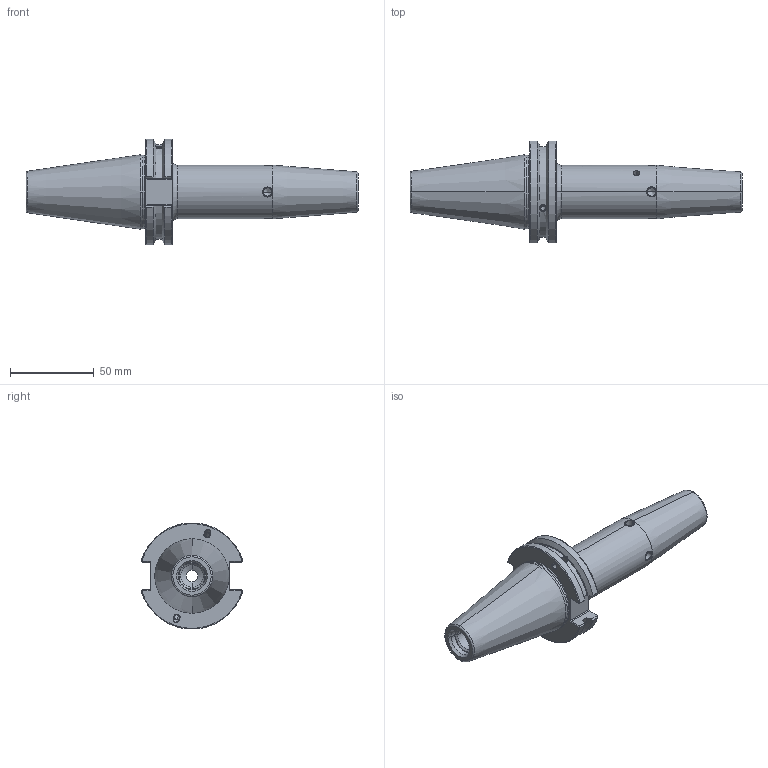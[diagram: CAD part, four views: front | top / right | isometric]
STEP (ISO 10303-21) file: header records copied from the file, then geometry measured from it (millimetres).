
FILE_DESCRIPTION((''),'2;1');
FILE_NAME('CAT40ADB-SFH9_525C-130','2020-09-02T08:30:33',('ssktool'),(''),'CREO PARAMETRIC BY PTC INC, 2018100','CREO PARAMETRIC BY PTC INC, 2018100','');
FILE_SCHEMA(('CONFIG_CONTROL_DESIGN'));
Length unit declared in the file: millimetre
Products named in the file (1): CAT40ADB-SFH9_525C-130
Bounding box: 198.25 x 60.84 x 63.27 mm (x, y, z)
Volume: 166730.2 mm3; surface area: 39229.7 mm2
Topology: 1 solids, 10 shells, 199 faces, 526 edges, 330 vertices
Faces by surface type: cylinder 86, plane 53, cone 38, torus 18, bspline 4
Entity records: 6837 total; most frequent: CARTESIAN_POINT 2041, DIRECTION 974, ORIENTED_EDGE 964, EDGE_CURVE 510, AXIS2_PLACEMENT_3D 388, VERTEX_POINT 330, EDGE_LOOP 232, FACE_OUTER_BOUND 199
